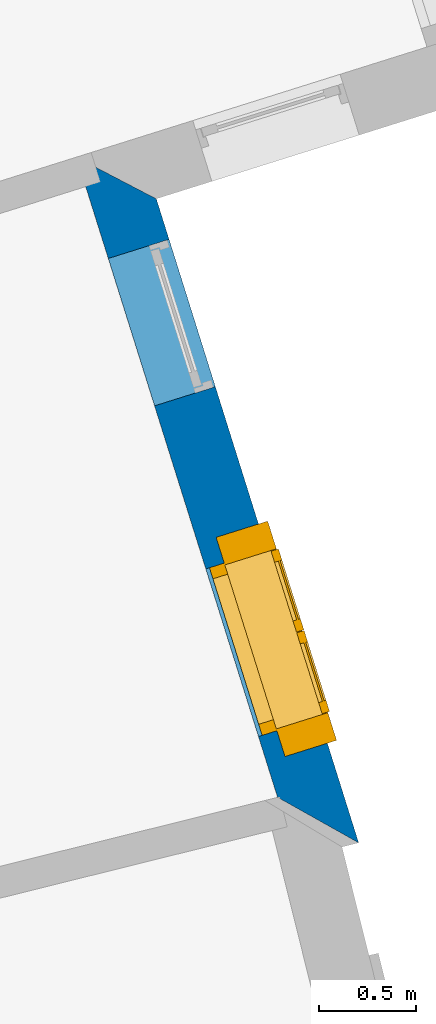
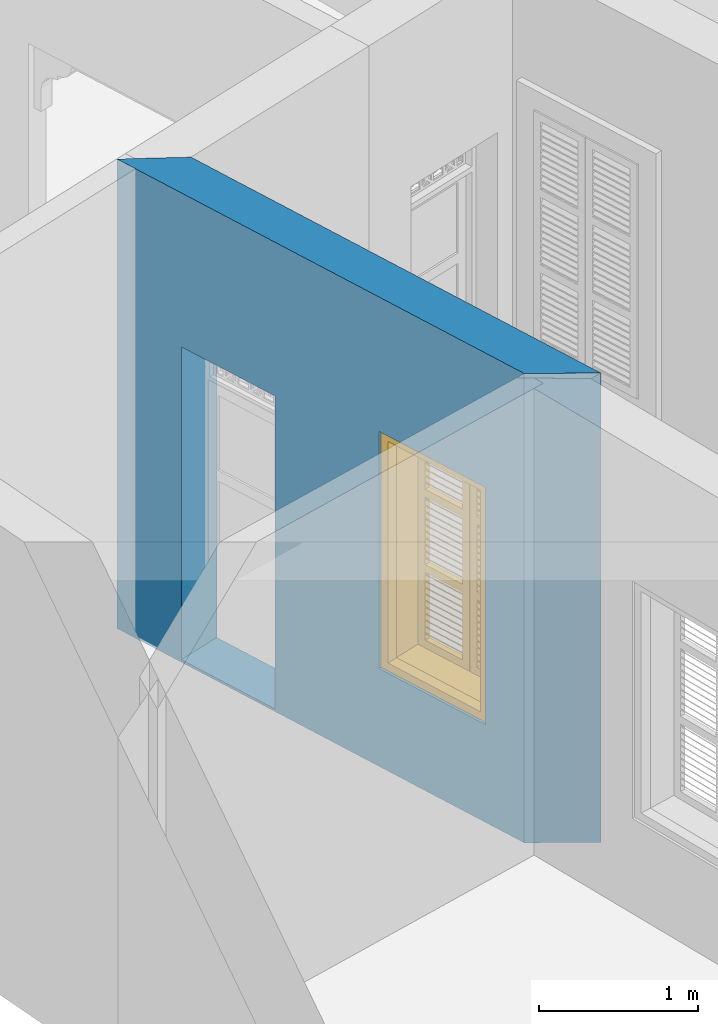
# One storey, part 7 of 14: 1 wall, 1 window, 2 openings.
"""IFC4 building model written with IfcOpenShell, lengths in metres."""

import ifcopenshell
import ifcopenshell.guid

model = None  # the IFC model being written
_history = None  # IfcOwnerHistory: only IFC2X3 demands one
_inside = {}  # id of a spatial element -> (the spatial element, [elements in it])
_under = {}  # id of a project, library or spatial element -> (it, [spatial elements below it])
_declared = {}  # id of a project -> (the project, [libraries it declares])
_typed = {}  # id of a type object -> (the type object, [elements of that type])
_made_of = {}  # id of a material, layer set ... -> (it, [elements and type objects made of it])


def new_model(schema):
    """Start an empty IFC model of exactly this schema.

    Asked for "IFC4X3", IfcOpenShell would pick the latest addendum, in which some entities
    have other attributes; the version numbers below select the first issue.
    IFC2X3 requires an IfcOwnerHistory on every rooted entity: one is made here for all.
    """
    global model, _history
    if schema == "IFC4X3":
        model = ifcopenshell.file(schema_version=(4, 3, 0, 0))
    else:
        model = ifcopenshell.file(schema=schema)
    _inside.clear()
    _under.clear()
    _declared.clear()
    _typed.clear()
    _made_of.clear()
    _history = None
    if model.schema == "IFC2X3":
        org = make("IfcOrganization", Name="unknown")
        user = make(
            "IfcPersonAndOrganization",
            ThePerson=make("IfcPerson", FamilyName="unknown"),
            TheOrganization=org,
        )
        app = make(
            "IfcApplication",
            ApplicationDeveloper=org,
            Version="unknown",
            ApplicationFullName="unknown",
            ApplicationIdentifier="unknown",
        )
        _history = make(
            "IfcOwnerHistory",
            OwningUser=user,
            OwningApplication=app,
            ChangeAction="ADDED",
            CreationDate=0,
        )
    return model


def make(cls, **values):
    """One entity of the class cls with the attributes given. An attribute that is None is left unset."""
    return model.create_entity(
        cls, **{name: value for name, value in values.items() if value is not None}
    )


def rooted(cls, **values):
    """An entity with a GlobalId (a new one), such as an element, a storey or a relation."""
    return make(cls, GlobalId=ifcopenshell.guid.new(), OwnerHistory=_history, **values)


def si_unit(unit_type, name, prefix=None):
    """IfcSIUnit, for example si_unit("LENGTHUNIT", "METRE", prefix="MILLI")."""
    return make("IfcSIUnit", UnitType=unit_type, Prefix=prefix, Name=name)


def assignment(units):
    """IfcUnitAssignment: the units of a project."""
    return None if units is None else make("IfcUnitAssignment", Units=units)


def point(xyz):
    """IfcCartesianPoint."""
    return None if xyz is None else make("IfcCartesianPoint", Coordinates=xyz)


def direction(xyz):
    """IfcDirection."""
    return None if xyz is None else make("IfcDirection", DirectionRatios=xyz)


def frame(location, z_axis=None, x_axis=None):
    """IfcAxis2Placement3D, a coordinate frame: its origin and axes. An axis left out is left unset."""
    return make(
        "IfcAxis2Placement3D",
        Location=point(location),
        Axis=direction(z_axis),
        RefDirection=direction(x_axis),
    )


def origin():
    """The frame at (0, 0, 0) with its axes left unset."""
    return frame((0.0, 0.0, 0.0))


def origin_with_axes():
    """The frame at (0, 0, 0) with the z axis (0, 0, 1) and the x axis (1, 0, 0) written out."""
    return frame((0.0, 0.0, 0.0), z_axis=(0.0, 0.0, 1.0), x_axis=(1.0, 0.0, 0.0))


def place(relative_to, where):
    """IfcLocalPlacement: puts the frame where relative to a parent placement (None: the world)."""
    return make(
        "IfcLocalPlacement", PlacementRelTo=relative_to, RelativePlacement=where
    )


def context(
    kind, dimensions, precision=None, world=None, true_north=None, identifier=None
):
    """IfcGeometricRepresentationContext, for example the 3D "Model" context."""
    return make(
        "IfcGeometricRepresentationContext",
        ContextIdentifier=identifier,
        ContextType=kind,
        CoordinateSpaceDimension=dimensions,
        Precision=precision,
        WorldCoordinateSystem=world,
        TrueNorth=true_north,
    )


def subcontext(parent, identifier, kind, view, scale=None):
    """IfcGeometricRepresentationSubContext, for example "Body" below "Model"."""
    return make(
        "IfcGeometricRepresentationSubContext",
        ContextIdentifier=identifier,
        ContextType=kind,
        ParentContext=parent,
        TargetScale=scale,
        TargetView=view,
    )


def project(units=None, contexts=None):
    """IfcProject with its units and contexts."""
    return rooted(
        "IfcProject",
        Name="project",
        RepresentationContexts=contexts,
        UnitsInContext=assignment(units),
    )


def spatial(cls, under=None, at=None, **own):
    """A site, building, storey or space (cls), placed at a placement, below another one or the project."""
    s = rooted(cls, ObjectPlacement=at, **own)
    if under is not None:
        _under.setdefault(under.id(), (under, []))[1].append(s)
    return s


def polyline(points):
    """IfcPolyline through the points."""
    return make("IfcPolyline", Points=[point(p) for p in points])


def outline(outer, holes=None, kind="AREA"):
    """IfcArbitraryClosedProfileDef: a profile drawn as a closed curve; with holes, ...WithVoids."""
    if holes is None:
        return make("IfcArbitraryClosedProfileDef", ProfileType=kind, OuterCurve=outer)
    return make(
        "IfcArbitraryProfileDefWithVoids",
        ProfileType=kind,
        OuterCurve=outer,
        InnerCurves=holes,
    )


def extrude(swept, where, along, depth):
    """IfcExtrudedAreaSolid: the profile swept, set in the frame where, extruded along a direction by depth."""
    return make(
        "IfcExtrudedAreaSolid",
        SweptArea=swept,
        Position=where,
        ExtrudedDirection=direction(along),
        Depth=depth,
    )


def faces_of(points, faces, orient=None, outer=None):
    """IfcFace entities. A face is a list of loops; a loop is a list of indices into points, from 0.

    orient and outer hold one flag for each loop. By default every Orientation is true, the
    first loop of a face is its IfcFaceOuterBound and the others are IfcFaceBound.
    """
    made = []
    for i, loops in enumerate(faces):
        bounds = []
        for j, loop in enumerate(loops):
            is_outer = j == 0 if outer is None else outer[i][j]
            bounds.append(
                make(
                    "IfcFaceOuterBound" if is_outer else "IfcFaceBound",
                    Bound=make("IfcPolyLoop", Polygon=[points[k] for k in loop]),
                    Orientation=True if orient is None else orient[i][j],
                )
            )
        made.append(make("IfcFace", Bounds=bounds))
    return made


def faceted_brep(points, faces, orient=None, outer=None, voids=None):
    """IfcFacetedBrep: a solid bounded by flat faces; with voids (closed shells), ...WithVoids."""
    shared = [point(p) for p in points]
    hull = make("IfcClosedShell", CfsFaces=faces_of(shared, faces, orient, outer))
    if voids is None:
        return make("IfcFacetedBrep", Outer=hull)
    return make(
        "IfcFacetedBrepWithVoids",
        Outer=hull,
        Voids=[
            make(cls, CfsFaces=faces_of(shared, fs, o, b)) for cls, fs, o, b in voids
        ],
    )


def shape(context_of_items, identifier, shape_type, items):
    """IfcShapeRepresentation: the items that make up one representation, for example the "Body"."""
    return make(
        "IfcShapeRepresentation",
        ContextOfItems=context_of_items,
        RepresentationIdentifier=identifier,
        RepresentationType=shape_type,
        Items=items,
    )


def source(mapping_origin, context_of_items, identifier, shape_type, items):
    """IfcRepresentationMap: a shape defined once, which mapped items show again and again."""
    return make(
        "IfcRepresentationMap",
        MappingOrigin=mapping_origin,
        MappedRepresentation=shape(context_of_items, identifier, shape_type, items),
    )


def transform(
    local_origin,
    x_axis=None,
    y_axis=None,
    z_axis=None,
    scale=None,
    scale2=None,
    scale3=None,
    uniform=True,
):
    """IfcCartesianTransformationOperator3D, or its non-uniform kind. x_axis, y_axis, z_axis: its Axis1, 2, 3."""
    if uniform:
        return make(
            "IfcCartesianTransformationOperator3D",
            Axis1=direction(x_axis),
            Axis2=direction(y_axis),
            LocalOrigin=point(local_origin),
            Scale=scale,
            Axis3=direction(z_axis),
        )
    return make(
        "IfcCartesianTransformationOperator3DnonUniform",
        Axis1=direction(x_axis),
        Axis2=direction(y_axis),
        LocalOrigin=point(local_origin),
        Scale=scale,
        Axis3=direction(z_axis),
        Scale2=scale2,
        Scale3=scale3,
    )


def mapped(mapping_source, mapping_target):
    """IfcMappedItem: shows the shape of a source again, moved by a transform."""
    return make(
        "IfcMappedItem", MappingSource=mapping_source, MappingTarget=mapping_target
    )


def material(Name=None, Category=None):
    """IfcMaterial."""
    return make("IfcMaterial", Name=Name, Category=Category)


def layer(
    of_material, thickness, ventilated=None, Name=None, Category=None, Priority=None
):
    """IfcMaterialLayer: one layer of a wall or slab, of a material (None: an air gap)."""
    return make(
        "IfcMaterialLayer",
        Material=of_material,
        LayerThickness=thickness,
        IsVentilated=ventilated,
        Name=Name,
        Category=Category,
        Priority=Priority,
    )


def layer_set(layers, Name=None):
    """IfcMaterialLayerSet."""
    return make("IfcMaterialLayerSet", MaterialLayers=layers, LayerSetName=Name)


def layer_usage(for_layer_set, set_direction, sense, offset, extent=None):
    """IfcMaterialLayerSetUsage: how a layer set lies in its element."""
    return make(
        "IfcMaterialLayerSetUsage",
        ForLayerSet=for_layer_set,
        LayerSetDirection=set_direction,
        DirectionSense=sense,
        OffsetFromReferenceLine=offset,
        ReferenceExtent=extent,
    )


def made_of(thing, what):
    """Note that an element or type object is made of a material, layer set ...; save() writes the relation."""
    if what is not None:
        _made_of.setdefault(what.id(), (what, []))[1].append(thing)
    return thing


def type_object(cls, material=None, **own):
    """A type object (cls), such as IfcWallType, which elements share."""
    return made_of(rooted(cls, **own), material)


def type_shapes(of_type, sources):
    """Give a type object the sources (RepresentationMaps) that its elements show as mapped items."""
    of_type.RepresentationMaps = sources


def element(
    cls,
    number,
    at=None,
    inside=None,
    cuts=None,
    type_object=None,
    material=None,
    context=None,
    identifier="Body",
    shape_type=None,
    held_by="IfcProductDefinitionShape",
    body=None,
    shapes=None,
    **own,
):
    """One element of the class cls, such as IfcWall. Its Tag is "e" and its number.

    at: its placement. inside: the storey or other place that contains it. cuts: it is an
    opening in that element (IfcRelVoidsElement). A single representation is given by context,
    identifier, shape_type and body (its items); several are given by shapes. held_by: the class
    of the entity that holds the representations. save() writes the other relations.
    """
    e = rooted(cls, Tag="e%d" % number, ObjectPlacement=at, **own)
    if body is not None:
        shapes = [shape(context, identifier, shape_type, body)]
    if shapes is not None:
        e.Representation = make(held_by, Representations=shapes)
    if inside is not None:
        _inside.setdefault(inside.id(), (inside, []))[1].append(e)
    if cuts is not None:
        rooted(
            "IfcRelVoidsElement", RelatingBuildingElement=cuts, RelatedOpeningElement=e
        )
    if type_object is not None:
        _typed.setdefault(type_object.id(), (type_object, []))[1].append(e)
    return made_of(e, material)


def fill(opening, filler):
    """IfcRelFillsElement: the door or window that sits in an opening."""
    return rooted(
        "IfcRelFillsElement",
        RelatingOpeningElement=opening,
        RelatedBuildingElement=filler,
    )


def aggregate(whole, parts):
    """IfcRelAggregates: a whole, such as a stair, and the parts it consists of."""
    return rooted("IfcRelAggregates", RelatingObject=whole, RelatedObjects=parts)


def save(model, path):
    """Write the relations noted so far, then the file.

    IfcRelAggregates (storeys below a building ...), IfcRelContainedInSpatialStructure (elements
    in a storey), IfcRelDefinesByType, IfcRelAssociatesMaterial and IfcRelDeclares: one each for
    every whole, place, type object, material and project.
    """
    for whole, parts in _under.values():
        aggregate(whole, parts)
    for where, things in _inside.values():
        rooted(
            "IfcRelContainedInSpatialStructure",
            RelatedElements=things,
            RelatingStructure=where,
        )
    for kind, things in _typed.values():
        rooted("IfcRelDefinesByType", RelatedObjects=things, RelatingType=kind)
    for what, things in _made_of.values():
        rooted("IfcRelAssociatesMaterial", RelatedObjects=things, RelatingMaterial=what)
    for by, libraries in _declared.values():
        rooted("IfcRelDeclares", RelatingContext=by, RelatedDefinitions=libraries)
    model.write(path)


model = new_model("IFC4")

# Units and contexts
model_context = context("Model", 3, world=origin_with_axes())
body_context = subcontext(model_context, "Body", "Model", "MODEL_VIEW")
ifc_project = project(units=[si_unit("PLANEANGLEUNIT", "RADIAN"), si_unit("MASSUNIT", "GRAM", prefix="KILO"), si_unit("FORCEUNIT", "NEWTON", prefix="KILO"), si_unit("LENGTHUNIT", "METRE"), si_unit("AREAUNIT", "SQUARE_METRE"), si_unit("VOLUMEUNIT", "CUBIC_METRE")], contexts=[model_context, model_context])

# Site, building, storey
site_placement = place(None, origin_with_axes())
site = spatial("IfcSite", under=ifc_project, at=site_placement, Name="Site plot-0", CompositionType="ELEMENT")
building_placement = place(None, origin_with_axes())
building = spatial("IfcBuilding", under=site, at=building_placement, Name="Building plot-0", CompositionType="ELEMENT")
storey_placement = place(None, origin_with_axes())
storey = spatial("IfcBuildingStorey", under=building, at=storey_placement, Name="plot-0 0", CompositionType="ELEMENT", Elevation=0.0)

# Wall, openings, window
ifc_material = material(Name="Masonry")
ifc_layer = layer(ifc_material, 0.33, ventilated=False)
ifc_layer_set = layer_set([ifc_layer], Name="exterior_0.08_0.25")
ifc_layer_usage = layer_usage(ifc_layer_set, "AXIS2", "POSITIVE", -0.25)
wall_type = type_object("IfcWallType", Name="exterior_0.08_0.25", PredefinedType="SOLIDWALL", material=ifc_layer_set)
wall_placement = place(storey_placement, frame((4.05350582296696, 5.40387357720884, 0.0), z_axis=(0.0, 0.0, 1.0), x_axis=(-0.299724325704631, 0.954025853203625, 0.0)))
wall = element("IfcWall", 1, at=wall_placement, inside=storey, type_object=wall_type, material=ifc_layer_usage, Name="exterior", context=body_context, shape_type="SweptSolid", body=[
    extrude(outline(polyline([(0.0850170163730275, 0.0800000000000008), (-0.265678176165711, -0.25), (3.23043635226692, -0.25), (3.56043635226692, 0.0800000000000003), (0.0850170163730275, 0.0800000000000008)])), origin_with_axes(), (0.0, 0.0, 1.0), 3.6),
])
opening_1_placement = place(wall_placement, frame((0.41510908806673, 0.0, 0.75)))
opening_1 = element("IfcOpeningElement", 2, at=opening_1_placement, cuts=wall, Name="My Opening", ObjectType="Opening", context=body_context, shape_type="SweptSolid", body=[
    extrude(outline(polyline([(0.0, -0.269999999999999), (0.91, -0.27), (0.910000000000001, 1.1), (2.77555756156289e-16, 1.1), (0.0, -0.269999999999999)])), origin_with_axes(), (0.0, 0.0, 1.0), 1.82),
])
opening_2_placement = place(wall_placement, frame((2.21032726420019, 0.0, 0.02)))
element("IfcOpeningElement", 3, at=opening_2_placement, cuts=wall, Name="My Opening", ObjectType="Opening", context=body_context, shape_type="SweptSolid", body=[
    extrude(outline(polyline([(0.0, -0.27), (0.8, -0.27), (0.8, 1.1), (8.88178419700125e-16, 1.1), (0.0, -0.27)])), origin_with_axes(), (0.0, 0.0, 1.0), 2.4),
])
window_type = type_object("IfcWindowType", Name="shuttered_big", PartitioningType="DOUBLE_PANEL_HORIZONTAL", PredefinedType="NOTDEFINED")
shared_shape = source(origin(), body_context, "Body", "Brep", [
    faceted_brep([(0.074, 0.0, 0.810667), (0.393, 0.0, 0.810667), (0.393, 0.0, 0.800667), (0.074, 0.0, 0.800667), (0.074, -0.04, 0.770667), (0.393, -0.04, 0.770667), (0.393, -0.04, 0.760667), (0.074, -0.04, 0.760667), (0.517, 0.0, 0.232), (0.836, 0.0, 0.232), (0.836, 0.0, 0.222), (0.517, 0.0, 0.222), (0.517, -0.04, 0.192), (0.836, -0.04, 0.192), (0.836, -0.04, 0.182), (0.517, -0.04, 0.182), (0.517, 0.0, 0.532), (0.836, 0.0, 0.532), (0.836, 0.0, 0.522), (0.517, 0.0, 0.522), (0.517, -0.04, 0.492), (0.836, -0.04, 0.492), (0.836, -0.04, 0.482), (0.517, -0.04, 0.482), (0.517, 0.0, 0.482), (0.836, 0.0, 0.482), (0.836, 0.0, 0.472), (0.517, 0.0, 0.472), (0.517, -0.04, 0.442), (0.836, -0.04, 0.442), (0.836, -0.04, 0.432), (0.517, -0.04, 0.432), (0.517, 0.0, 0.582), (0.836, 0.0, 0.582), (0.836, 0.0, 0.572), (0.517, 0.0, 0.572), (0.517, -0.04, 0.542), (0.836, -0.04, 0.542), (0.836, -0.04, 0.532), (0.517, -0.04, 0.532), (0.517, 0.0, 0.182), (0.836, 0.0, 0.182), (0.836, 0.0, 0.172), (0.517, 0.0, 0.172), (0.517, -0.04, 0.142), (0.836, -0.04, 0.142), (0.836, -0.04, 0.132), (0.517, -0.04, 0.132), (0.517, 0.0, 0.382), (0.836, 0.0, 0.382), (0.836, 0.0, 0.372), (0.517, 0.0, 0.372), (0.517, -0.04, 0.342), (0.836, -0.04, 0.342), (0.836, -0.04, 0.332), (0.517, -0.04, 0.332), (0.517, 0.0, 0.432), (0.836, 0.0, 0.432), (0.836, 0.0, 0.422), (0.517, 0.0, 0.422), (0.517, -0.04, 0.392), (0.836, -0.04, 0.392), (0.836, -0.04, 0.382), (0.517, -0.04, 0.382), (0.517, 0.0, 0.132), (0.836, 0.0, 0.132), (0.836, 0.0, 0.122), (0.517, 0.0, 0.122), (0.517, -0.04, 0.092), (0.836, -0.04, 0.092), (0.836, -0.04, 0.082), (0.517, -0.04, 0.082), (0.517, 0.0, 0.282), (0.836, 0.0, 0.282), (0.836, 0.0, 0.272), (0.517, 0.0, 0.272), (0.517, -0.04, 0.242), (0.836, -0.04, 0.242), (0.836, -0.04, 0.232), (0.517, -0.04, 0.232), (0.517, 0.0, 0.332), (0.836, 0.0, 0.332), (0.836, 0.0, 0.322), (0.517, 0.0, 0.322), (0.517, -0.04, 0.292), (0.836, -0.04, 0.292), (0.836, -0.04, 0.282), (0.517, -0.04, 0.282), (0.517, 0.0, 0.810667), (0.836, 0.0, 0.810667), (0.836, 0.0, 0.800667), (0.517, 0.0, 0.800667), (0.517, -0.04, 0.770667), (0.836, -0.04, 0.770667), (0.836, -0.04, 0.760667), (0.517, -0.04, 0.760667), (0.517, 0.0, 1.110667), (0.836, 0.0, 1.110667), (0.836, 0.0, 1.100667), (0.517, 0.0, 1.100667), (0.517, -0.04, 1.070667), (0.836, -0.04, 1.070667), (0.836, -0.04, 1.060667), (0.517, -0.04, 1.060667), (0.517, 0.0, 1.060667), (0.836, 0.0, 1.060667), (0.836, 0.0, 1.050667), (0.517, 0.0, 1.050667), (0.517, -0.04, 1.020667), (0.836, -0.04, 1.020667), (0.836, -0.04, 1.010667), (0.517, -0.04, 1.010667), (0.517, 0.0, 1.160667), (0.836, 0.0, 1.160667), (0.836, 0.0, 1.150667), (0.517, 0.0, 1.150667), (0.517, -0.04, 1.120667), (0.836, -0.04, 1.120667), (0.836, -0.04, 1.110667), (0.517, -0.04, 1.110667), (0.517, 0.0, 0.760667), (0.836, 0.0, 0.760667), (0.836, 0.0, 0.750667), (0.517, 0.0, 0.750667), (0.517, -0.04, 0.720667), (0.836, -0.04, 0.720667), (0.836, -0.04, 0.710667), (0.517, -0.04, 0.710667), (0.517, 0.0, 0.960667), (0.836, 0.0, 0.960667), (0.836, 0.0, 0.950667), (0.517, 0.0, 0.950667), (0.517, -0.04, 0.920667), (0.836, -0.04, 0.920667), (0.836, -0.04, 0.910667), (0.517, -0.04, 0.910667), (0.517, 0.0, 1.010667), (0.836, 0.0, 1.010667), (0.836, 0.0, 1.0), (0.517, 0.0, 1.0), (0.517, -0.04, 0.970667), (0.836, -0.04, 0.970667), (0.836, -0.04, 0.960667), (0.517, -0.04, 0.960667), (0.517, 0.0, 0.710667), (0.836, 0.0, 0.710667), (0.836, 0.0, 0.700667), (0.517, 0.0, 0.700667), (0.517, -0.04, 0.670667), (0.836, -0.04, 0.670667), (0.836, -0.04, 0.660667), (0.517, -0.04, 0.660667), (0.517, 0.0, 0.860667), (0.836, 0.0, 0.860667), (0.836, 0.0, 0.850667), (0.517, 0.0, 0.850667), (0.517, -0.04, 0.820667), (0.836, -0.04, 0.820667), (0.836, -0.04, 0.810667), (0.517, -0.04, 0.810667), (0.517, 0.0, 0.910667), (0.836, 0.0, 0.910667), (0.836, 0.0, 0.900667), (0.517, 0.0, 0.900667), (0.517, -0.04, 0.870667), (0.836, -0.04, 0.870667), (0.836, -0.04, 0.860667), (0.517, -0.04, 0.860667), (0.517, 0.0, 1.389333), (0.836, 0.0, 1.389333), (0.836, 0.0, 1.379333), (0.517, 0.0, 1.379333), (0.517, -0.04, 1.349333), (0.836, -0.04, 1.349333), (0.836, -0.04, 1.339333), (0.517, -0.04, 1.339333), (0.517, 0.0, 1.689333), (0.836, 0.0, 1.689333), (0.836, 0.0, 1.679333), (0.517, 0.0, 1.679333), (0.517, -0.04, 1.649333), (0.836, -0.04, 1.649333), (0.836, -0.04, 1.639333), (0.517, -0.04, 1.639333), (0.517, 0.0, 1.639333), (0.836, 0.0, 1.639333), (0.836, 0.0, 1.629333), (0.517, 0.0, 1.629333), (0.517, -0.04, 1.599333), (0.836, -0.04, 1.599333), (0.836, -0.04, 1.589333), (0.517, -0.04, 1.589333), (0.517, 0.0, 1.739333), (0.836, 0.0, 1.739333), (0.836, 0.0, 1.729333), (0.517, 0.0, 1.729333), (0.517, -0.04, 1.699333), (0.836, -0.04, 1.699333), (0.836, -0.04, 1.689333), (0.517, -0.04, 1.689333), (0.517, 0.0, 1.339333), (0.836, 0.0, 1.339333), (0.836, 0.0, 1.329333), (0.517, 0.0, 1.329333), (0.517, -0.04, 1.299333), (0.836, -0.04, 1.299333), (0.836, -0.04, 1.289333), (0.517, -0.04, 1.289333), (0.517, 0.0, 1.539333), (0.836, 0.0, 1.539333), (0.836, 0.0, 1.529333), (0.517, 0.0, 1.529333), (0.517, -0.04, 1.499333), (0.836, -0.04, 1.499333), (0.836, -0.04, 1.489333), (0.517, -0.04, 1.489333), (0.517, 0.0, 1.589333), (0.836, 0.0, 1.589333), (0.836, 0.0, 1.579333), (0.517, 0.0, 1.579333), (0.517, -0.04, 1.549333), (0.836, -0.04, 1.549333), (0.836, -0.04, 1.539333), (0.517, -0.04, 1.539333), (0.517, 0.0, 1.289333), (0.836, 0.0, 1.289333), (0.836, 0.0, 1.279333), (0.517, 0.0, 1.279333), (0.517, -0.04, 1.249333), (0.836, -0.04, 1.249333), (0.836, -0.04, 1.239333), (0.517, -0.04, 1.239333), (0.517, 0.0, 1.439333), (0.836, 0.0, 1.439333), (0.836, 0.0, 1.429333), (0.517, 0.0, 1.429333), (0.517, -0.04, 1.399333), (0.836, -0.04, 1.399333), (0.836, -0.04, 1.389333), (0.517, -0.04, 1.389333), (0.517, 0.0, 1.489333), (0.836, 0.0, 1.489333), (0.836, 0.0, 1.479333), (0.517, 0.0, 1.479333), (0.517, -0.04, 1.449333), (0.836, -0.04, 1.449333), (0.836, -0.04, 1.439333), (0.517, -0.04, 1.439333), (0.074, 0.0, 0.232), (0.393, 0.0, 0.232), (0.393, 0.0, 0.222), (0.074, 0.0, 0.222), (0.074, -0.04, 0.192), (0.393, -0.04, 0.192), (0.393, -0.04, 0.182), (0.074, -0.04, 0.182), (0.074, 0.0, 0.532), (0.393, 0.0, 0.532), (0.393, 0.0, 0.522), (0.074, 0.0, 0.522), (0.074, -0.04, 0.492), (0.393, -0.04, 0.492), (0.393, -0.04, 0.482), (0.074, -0.04, 0.482), (0.074, 0.0, 0.482), (0.393, 0.0, 0.482), (0.393, 0.0, 0.472), (0.074, 0.0, 0.472), (0.074, -0.04, 0.442), (0.393, -0.04, 0.442), (0.393, -0.04, 0.432), (0.074, -0.04, 0.432), (0.074, 0.0, 0.582), (0.393, 0.0, 0.582), (0.393, 0.0, 0.572), (0.074, 0.0, 0.572), (0.074, -0.04, 0.542), (0.393, -0.04, 0.542), (0.393, -0.04, 0.532), (0.074, -0.04, 0.532), (0.074, 0.0, 0.182), (0.393, 0.0, 0.182), (0.393, 0.0, 0.172), (0.074, 0.0, 0.172), (0.074, -0.04, 0.142), (0.393, -0.04, 0.142), (0.393, -0.04, 0.132), (0.074, -0.04, 0.132), (0.074, 0.0, 0.382), (0.393, 0.0, 0.382), (0.393, 0.0, 0.372), (0.074, 0.0, 0.372), (0.074, -0.04, 0.342), (0.393, -0.04, 0.342), (0.393, -0.04, 0.332), (0.074, -0.04, 0.332), (0.074, 0.0, 0.432), (0.393, 0.0, 0.432), (0.393, 0.0, 0.422), (0.074, 0.0, 0.422), (0.074, -0.04, 0.392), (0.393, -0.04, 0.392), (0.393, -0.04, 0.382), (0.074, -0.04, 0.382), (0.074, 0.0, 0.132), (0.393, 0.0, 0.132), (0.393, 0.0, 0.122), (0.074, 0.0, 0.122), (0.074, -0.04, 0.092), (0.393, -0.04, 0.092), (0.393, -0.04, 0.082), (0.074, -0.04, 0.082), (0.074, 0.0, 0.282), (0.393, 0.0, 0.282), (0.393, 0.0, 0.272), (0.074, 0.0, 0.272), (0.074, -0.04, 0.242), (0.393, -0.04, 0.242), (0.393, -0.04, 0.232), (0.074, -0.04, 0.232), (0.074, 0.0, 0.332), (0.393, 0.0, 0.332), (0.393, 0.0, 0.322), (0.074, 0.0, 0.322), (0.074, -0.04, 0.292), (0.393, -0.04, 0.292), (0.393, -0.04, 0.282), (0.074, -0.04, 0.282), (0.074, 0.0, 1.110667), (0.393, 0.0, 1.110667), (0.393, 0.0, 1.100667), (0.074, 0.0, 1.100667), (0.074, -0.04, 1.070667), (0.393, -0.04, 1.070667), (0.393, -0.04, 1.060667), (0.074, -0.04, 1.060667), (0.074, 0.0, 1.060667), (0.393, 0.0, 1.060667), (0.393, 0.0, 1.050667), (0.074, 0.0, 1.050667), (0.074, -0.04, 1.020667), (0.393, -0.04, 1.020667), (0.393, -0.04, 1.010667), (0.074, -0.04, 1.010667), (0.074, 0.0, 1.160667), (0.393, 0.0, 1.160667), (0.393, 0.0, 1.150667), (0.074, 0.0, 1.150667), (0.074, -0.04, 1.120667), (0.393, -0.04, 1.120667), (0.393, -0.04, 1.110667), (0.074, -0.04, 1.110667), (0.074, 0.0, 0.760667), (0.393, 0.0, 0.760667), (0.393, 0.0, 0.750667), (0.074, 0.0, 0.750667), (0.074, -0.04, 0.720667), (0.393, -0.04, 0.720667), (0.393, -0.04, 0.710667), (0.074, -0.04, 0.710667), (0.074, 0.0, 0.960667), (0.393, 0.0, 0.960667), (0.393, 0.0, 0.950667), (0.074, 0.0, 0.950667), (0.074, -0.04, 0.920667), (0.393, -0.04, 0.920667), (0.393, -0.04, 0.910667), (0.074, -0.04, 0.910667), (0.074, 0.0, 1.010667), (0.393, 0.0, 1.010667), (0.393, 0.0, 1.0), (0.074, 0.0, 1.0), (0.074, -0.04, 0.970667), (0.393, -0.04, 0.970667), (0.393, -0.04, 0.960667), (0.074, -0.04, 0.960667), (0.074, 0.0, 0.710667), (0.393, 0.0, 0.710667), (0.393, 0.0, 0.700667), (0.074, 0.0, 0.700667), (0.074, -0.04, 0.670667), (0.393, -0.04, 0.670667), (0.393, -0.04, 0.660667), (0.074, -0.04, 0.660667), (0.074, 0.0, 0.860667), (0.393, 0.0, 0.860667), (0.393, 0.0, 0.850667), (0.074, 0.0, 0.850667), (0.074, -0.04, 0.820667), (0.393, -0.04, 0.820667), (0.393, -0.04, 0.810667), (0.074, -0.04, 0.810667), (0.074, 0.0, 0.910667), (0.393, 0.0, 0.910667), (0.393, 0.0, 0.900667), (0.074, 0.0, 0.900667), (0.074, -0.04, 0.870667), (0.393, -0.04, 0.870667), (0.393, -0.04, 0.860667), (0.074, -0.04, 0.860667), (0.074, 0.0, 1.389333), (0.393, 0.0, 1.389333), (0.393, 0.0, 1.379333), (0.074, 0.0, 1.379333), (0.074, -0.04, 1.349333), (0.393, -0.04, 1.349333), (0.393, -0.04, 1.339333), (0.074, -0.04, 1.339333), (0.074, 0.0, 1.689333), (0.393, 0.0, 1.689333), (0.393, 0.0, 1.679333), (0.074, 0.0, 1.679333), (0.074, -0.04, 1.649333), (0.393, -0.04, 1.649333), (0.393, -0.04, 1.639333), (0.074, -0.04, 1.639333), (0.074, 0.0, 1.639333), (0.393, 0.0, 1.639333), (0.393, 0.0, 1.629333), (0.074, 0.0, 1.629333), (0.074, -0.04, 1.599333), (0.393, -0.04, 1.599333), (0.393, -0.04, 1.589333), (0.074, -0.04, 1.589333), (0.074, 0.0, 1.739333), (0.393, 0.0, 1.739333), (0.393, 0.0, 1.729333), (0.074, 0.0, 1.729333), (0.074, -0.04, 1.699333), (0.393, -0.04, 1.699333), (0.393, -0.04, 1.689333), (0.074, -0.04, 1.689333), (0.074, 0.0, 1.339333), (0.393, 0.0, 1.339333), (0.393, 0.0, 1.329333), (0.074, 0.0, 1.329333), (0.074, -0.04, 1.299333), (0.393, -0.04, 1.299333), (0.393, -0.04, 1.289333), (0.074, -0.04, 1.289333), (0.074, 0.0, 1.539333), (0.393, 0.0, 1.539333), (0.393, 0.0, 1.529333), (0.074, 0.0, 1.529333), (0.074, -0.04, 1.499333), (0.393, -0.04, 1.499333), (0.393, -0.04, 1.489333), (0.074, -0.04, 1.489333), (0.074, 0.0, 1.589333), (0.393, 0.0, 1.589333), (0.393, 0.0, 1.579333), (0.074, 0.0, 1.579333), (0.074, -0.04, 1.549333), (0.393, -0.04, 1.549333), (0.393, -0.04, 1.539333), (0.074, -0.04, 1.539333), (0.074, 0.0, 1.289333), (0.393, 0.0, 1.289333), (0.393, 0.0, 1.279333), (0.074, 0.0, 1.279333), (0.074, -0.04, 1.249333), (0.393, -0.04, 1.249333), (0.393, -0.04, 1.239333), (0.074, -0.04, 1.239333), (0.074, 0.0, 1.439333), (0.393, 0.0, 1.439333), (0.393, 0.0, 1.429333), (0.074, 0.0, 1.429333), (0.074, -0.04, 1.399333), (0.393, -0.04, 1.399333), (0.393, -0.04, 1.389333), (0.074, -0.04, 1.389333), (0.074, 0.0, 1.489333), (0.393, 0.0, 1.489333), (0.393, 0.0, 1.479333), (0.074, 0.0, 1.479333), (0.074, -0.04, 1.449333), (0.393, -0.04, 1.449333), (0.393, -0.04, 1.439333), (0.074, -0.04, 1.439333), (0.517, -0.04, 0.072), (0.457, -0.04, 0.012), (0.896, -0.04, 0.012), (0.836, -0.04, 0.072), (0.457, -0.04, 0.590667), (0.517, -0.04, 0.590667), (0.457, 0.0, 0.012), (0.896, 0.0, 0.012), (0.836, -0.04, 0.590667), (0.896, -0.04, 0.590667), (0.836, 0.0, 0.072), (0.517, 0.0, 0.072), (0.457, 0.0, 0.590667), (0.517, 0.0, 0.590667), (0.517, -0.04, 0.650667), (0.457, -0.04, 0.650667), (0.896, 0.0, 0.590667), (0.836, 0.0, 0.590667), (0.836, -0.04, 0.650667), (0.896, -0.04, 0.650667), (0.457, 0.0, 0.650667), (0.457, -0.04, 1.169333), (0.517, -0.04, 1.169333), (0.896, 0.0, 0.650667), (0.836, -0.04, 1.169333), (0.896, -0.04, 1.169333), (0.457, 0.0, 1.169333), (0.517, 0.0, 0.650667), (0.836, 0.0, 0.650667), (0.517, 0.0, 1.169333), (0.517, -0.04, 1.229333), (0.457, -0.04, 1.229333), (0.896, 0.0, 1.169333), (0.836, 0.0, 1.169333), (0.836, -0.04, 1.229333), (0.896, -0.04, 1.229333), (0.457, 0.0, 1.229333), (0.517, -0.04, 1.748), (0.457, -0.04, 1.808), (0.896, 0.0, 1.229333), (0.896, -0.04, 1.808), (0.836, -0.04, 1.748), (0.457, 0.0, 1.808), (0.517, 0.0, 1.229333), (0.836, 0.0, 1.229333), (0.517, 0.0, 1.748), (0.896, 0.0, 1.808), (0.836, 0.0, 1.748), (0.074, -0.04, 0.072), (0.014, -0.04, 0.012), (0.453, -0.04, 0.012), (0.393, -0.04, 0.072), (0.014, -0.04, 0.590667), (0.074, -0.04, 0.590667), (0.014, 0.0, 0.012), (0.453, 0.0, 0.012), (0.393, -0.04, 0.590667), (0.453, -0.04, 0.590667), (0.393, 0.0, 0.072), (0.074, 0.0, 0.072), (0.014, 0.0, 0.590667), (0.074, 0.0, 0.590667), (0.074, -0.04, 0.650667), (0.014, -0.04, 0.650667), (0.453, 0.0, 0.590667), (0.393, 0.0, 0.590667), (0.393, -0.04, 0.650667), (0.453, -0.04, 0.650667), (0.014, 0.0, 0.650667), (0.014, -0.04, 1.169333), (0.074, -0.04, 1.169333), (0.453, 0.0, 0.650667), (0.393, -0.04, 1.169333), (0.453, -0.04, 1.169333), (0.014, 0.0, 1.169333), (0.074, 0.0, 0.650667), (0.393, 0.0, 0.650667), (0.074, 0.0, 1.169333), (0.074, -0.04, 1.229333), (0.014, -0.04, 1.229333), (0.453, 0.0, 1.169333), (0.393, 0.0, 1.169333), (0.393, -0.04, 1.229333), (0.453, -0.04, 1.229333), (0.014, 0.0, 1.229333), (0.074, -0.04, 1.748), (0.014, -0.04, 1.808), (0.453, 0.0, 1.229333), (0.453, -0.04, 1.808), (0.393, -0.04, 1.748), (0.014, 0.0, 1.808), (0.074, 0.0, 1.229333), (0.393, 0.0, 1.229333), (0.074, 0.0, 1.748), (0.453, 0.0, 1.808), (0.393, 0.0, 1.748), (0.0, 0.33, 1.82), (0.91, 0.33, 1.82), (0.85, 0.33, 1.76), (0.06, 0.33, 1.76), (1.05, -0.03, 1.96), (1.05, 0.25, 1.96), (-0.14, 0.25, 1.96), (-0.14, -0.03, 1.96), (0.0, 0.25, 1.82), (0.91, 0.25, 1.82), (0.9, 0.25, 1.81), (0.01, 0.25, 1.81), (0.85, 0.33, 0.06), (0.91, 0.33, 0.0), (0.85, 0.25, 1.76), (0.06, 0.25, 1.76), (0.0, 0.33, 0.0), (0.06, 0.33, 0.06), (0.0, 0.25, 0.0), (0.910046, 0.25, 1.82), (0.91, 0.25, 0.0), (0.85, 0.25, 0.06), (0.06, 0.25, 0.06), (0.9, 0.25, 0.01), (0.9, -0.03, 0.01), (0.9, -0.03, 1.81), (0.01, -0.03, 0.01), (-0.14, -0.03, -0.14), (1.05, -0.03, -0.14), (0.01, -0.03, 1.81), (0.01, 0.25, 0.01), (1.05, 0.25, -0.14), (-0.14, 0.25, -0.14)], [[[0, 1, 2, 3]], [[1, 0, 4, 5]], [[2, 1, 5, 6]], [[6, 7, 3, 2]], [[7, 4, 0, 3]], [[5, 4, 7, 6]], [[8, 9, 10, 11]], [[12, 13, 9, 8]], [[13, 14, 10, 9]], [[14, 15, 11, 10]], [[15, 12, 8, 11]], [[13, 12, 15, 14]], [[16, 17, 18, 19]], [[20, 21, 17, 16]], [[21, 22, 18, 17]], [[22, 23, 19, 18]], [[23, 20, 16, 19]], [[21, 20, 23, 22]], [[24, 25, 26, 27]], [[28, 29, 25, 24]], [[29, 30, 26, 25]], [[30, 31, 27, 26]], [[31, 28, 24, 27]], [[29, 28, 31, 30]], [[32, 33, 34, 35]], [[36, 37, 33, 32]], [[37, 38, 34, 33]], [[38, 39, 35, 34]], [[39, 36, 32, 35]], [[37, 36, 39, 38]], [[40, 41, 42, 43]], [[44, 45, 41, 40]], [[45, 46, 42, 41]], [[46, 47, 43, 42]], [[47, 44, 40, 43]], [[45, 44, 47, 46]], [[48, 49, 50, 51]], [[52, 53, 49, 48]], [[53, 54, 50, 49]], [[54, 55, 51, 50]], [[55, 52, 48, 51]], [[53, 52, 55, 54]], [[56, 57, 58, 59]], [[60, 61, 57, 56]], [[61, 62, 58, 57]], [[62, 63, 59, 58]], [[63, 60, 56, 59]], [[61, 60, 63, 62]], [[64, 65, 66, 67]], [[68, 69, 65, 64]], [[69, 70, 66, 65]], [[70, 71, 67, 66]], [[71, 68, 64, 67]], [[69, 68, 71, 70]], [[72, 73, 74, 75]], [[76, 77, 73, 72]], [[77, 78, 74, 73]], [[78, 79, 75, 74]], [[79, 76, 72, 75]], [[77, 76, 79, 78]], [[80, 81, 82, 83]], [[84, 85, 81, 80]], [[85, 86, 82, 81]], [[86, 87, 83, 82]], [[87, 84, 80, 83]], [[85, 84, 87, 86]], [[88, 89, 90, 91]], [[92, 93, 89, 88]], [[93, 94, 90, 89]], [[94, 95, 91, 90]], [[95, 92, 88, 91]], [[93, 92, 95, 94]], [[96, 97, 98, 99]], [[100, 101, 97, 96]], [[101, 102, 98, 97]], [[102, 103, 99, 98]], [[103, 100, 96, 99]], [[101, 100, 103, 102]], [[104, 105, 106, 107]], [[108, 109, 105, 104]], [[109, 110, 106, 105]], [[110, 111, 107, 106]], [[111, 108, 104, 107]], [[109, 108, 111, 110]], [[112, 113, 114, 115]], [[116, 117, 113, 112]], [[117, 118, 114, 113]], [[118, 119, 115, 114]], [[119, 116, 112, 115]], [[117, 116, 119, 118]], [[120, 121, 122, 123]], [[124, 125, 121, 120]], [[125, 126, 122, 121]], [[126, 127, 123, 122]], [[127, 124, 120, 123]], [[125, 124, 127, 126]], [[128, 129, 130, 131]], [[132, 133, 129, 128]], [[133, 134, 130, 129]], [[134, 135, 131, 130]], [[135, 132, 128, 131]], [[133, 132, 135, 134]], [[136, 137, 138, 139]], [[140, 141, 137, 136]], [[141, 142, 138, 137]], [[142, 143, 139, 138]], [[143, 140, 136, 139]], [[141, 140, 143, 142]], [[144, 145, 146, 147]], [[148, 149, 145, 144]], [[149, 150, 146, 145]], [[150, 151, 147, 146]], [[151, 148, 144, 147]], [[149, 148, 151, 150]], [[152, 153, 154, 155]], [[156, 157, 153, 152]], [[157, 158, 154, 153]], [[158, 159, 155, 154]], [[159, 156, 152, 155]], [[157, 156, 159, 158]], [[160, 161, 162, 163]], [[164, 165, 161, 160]], [[165, 166, 162, 161]], [[166, 167, 163, 162]], [[167, 164, 160, 163]], [[165, 164, 167, 166]], [[168, 169, 170, 171]], [[172, 173, 169, 168]], [[173, 174, 170, 169]], [[174, 175, 171, 170]], [[175, 172, 168, 171]], [[173, 172, 175, 174]], [[176, 177, 178, 179]], [[180, 181, 177, 176]], [[181, 182, 178, 177]], [[182, 183, 179, 178]], [[183, 180, 176, 179]], [[181, 180, 183, 182]], [[184, 185, 186, 187]], [[188, 189, 185, 184]], [[189, 190, 186, 185]], [[190, 191, 187, 186]], [[191, 188, 184, 187]], [[189, 188, 191, 190]], [[192, 193, 194, 195]], [[196, 197, 193, 192]], [[197, 198, 194, 193]], [[198, 199, 195, 194]], [[199, 196, 192, 195]], [[197, 196, 199, 198]], [[200, 201, 202, 203]], [[204, 205, 201, 200]], [[205, 206, 202, 201]], [[206, 207, 203, 202]], [[207, 204, 200, 203]], [[205, 204, 207, 206]], [[208, 209, 210, 211]], [[212, 213, 209, 208]], [[213, 214, 210, 209]], [[214, 215, 211, 210]], [[215, 212, 208, 211]], [[213, 212, 215, 214]], [[216, 217, 218, 219]], [[220, 221, 217, 216]], [[221, 222, 218, 217]], [[222, 223, 219, 218]], [[223, 220, 216, 219]], [[221, 220, 223, 222]], [[224, 225, 226, 227]], [[228, 229, 225, 224]], [[229, 230, 226, 225]], [[230, 231, 227, 226]], [[231, 228, 224, 227]], [[229, 228, 231, 230]], [[232, 233, 234, 235]], [[236, 237, 233, 232]], [[237, 238, 234, 233]], [[238, 239, 235, 234]], [[239, 236, 232, 235]], [[237, 236, 239, 238]], [[240, 241, 242, 243]], [[244, 245, 241, 240]], [[245, 246, 242, 241]], [[246, 247, 243, 242]], [[247, 244, 240, 243]], [[245, 244, 247, 246]], [[248, 249, 250, 251]], [[252, 253, 249, 248]], [[253, 254, 250, 249]], [[254, 255, 251, 250]], [[255, 252, 248, 251]], [[253, 252, 255, 254]], [[256, 257, 258, 259]], [[260, 261, 257, 256]], [[261, 262, 258, 257]], [[262, 263, 259, 258]], [[263, 260, 256, 259]], [[261, 260, 263, 262]], [[264, 265, 266, 267]], [[268, 269, 265, 264]], [[269, 270, 266, 265]], [[270, 271, 267, 266]], [[271, 268, 264, 267]], [[269, 268, 271, 270]], [[272, 273, 274, 275]], [[276, 277, 273, 272]], [[277, 278, 274, 273]], [[278, 279, 275, 274]], [[279, 276, 272, 275]], [[277, 276, 279, 278]], [[280, 281, 282, 283]], [[284, 285, 281, 280]], [[285, 286, 282, 281]], [[286, 287, 283, 282]], [[287, 284, 280, 283]], [[285, 284, 287, 286]], [[288, 289, 290, 291]], [[292, 293, 289, 288]], [[293, 294, 290, 289]], [[294, 295, 291, 290]], [[295, 292, 288, 291]], [[293, 292, 295, 294]], [[296, 297, 298, 299]], [[300, 301, 297, 296]], [[301, 302, 298, 297]], [[302, 303, 299, 298]], [[303, 300, 296, 299]], [[301, 300, 303, 302]], [[304, 305, 306, 307]], [[308, 309, 305, 304]], [[309, 310, 306, 305]], [[310, 311, 307, 306]], [[311, 308, 304, 307]], [[309, 308, 311, 310]], [[312, 313, 314, 315]], [[316, 317, 313, 312]], [[317, 318, 314, 313]], [[318, 319, 315, 314]], [[319, 316, 312, 315]], [[317, 316, 319, 318]], [[320, 321, 322, 323]], [[324, 325, 321, 320]], [[325, 326, 322, 321]], [[326, 327, 323, 322]], [[327, 324, 320, 323]], [[325, 324, 327, 326]], [[328, 329, 330, 331]], [[332, 333, 329, 328]], [[333, 334, 330, 329]], [[334, 335, 331, 330]], [[335, 332, 328, 331]], [[333, 332, 335, 334]], [[336, 337, 338, 339]], [[340, 341, 337, 336]], [[341, 342, 338, 337]], [[342, 343, 339, 338]], [[343, 340, 336, 339]], [[341, 340, 343, 342]], [[344, 345, 346, 347]], [[348, 349, 345, 344]], [[349, 350, 346, 345]], [[350, 351, 347, 346]], [[351, 348, 344, 347]], [[349, 348, 351, 350]], [[352, 353, 354, 355]], [[356, 357, 353, 352]], [[357, 358, 354, 353]], [[358, 359, 355, 354]], [[359, 356, 352, 355]], [[357, 356, 359, 358]], [[360, 361, 362, 363]], [[364, 365, 361, 360]], [[365, 366, 362, 361]], [[366, 367, 363, 362]], [[367, 364, 360, 363]], [[366, 365, 364, 367]], [[368, 369, 370, 371]], [[372, 373, 369, 368]], [[373, 374, 370, 369]], [[374, 375, 371, 370]], [[375, 372, 368, 371]], [[373, 372, 375, 374]], [[376, 377, 378, 379]], [[380, 381, 377, 376]], [[381, 382, 378, 377]], [[382, 383, 379, 378]], [[383, 380, 376, 379]], [[381, 380, 383, 382]], [[384, 385, 386, 387]], [[388, 389, 385, 384]], [[389, 390, 386, 385]], [[390, 391, 387, 386]], [[391, 388, 384, 387]], [[389, 388, 391, 390]], [[392, 393, 394, 395]], [[396, 397, 393, 392]], [[397, 398, 394, 393]], [[398, 399, 395, 394]], [[399, 396, 392, 395]], [[397, 396, 399, 398]], [[400, 401, 402, 403]], [[404, 405, 401, 400]], [[405, 406, 402, 401]], [[406, 407, 403, 402]], [[407, 404, 400, 403]], [[405, 404, 407, 406]], [[408, 409, 410, 411]], [[412, 413, 409, 408]], [[413, 414, 410, 409]], [[414, 415, 411, 410]], [[415, 412, 408, 411]], [[414, 413, 412, 415]], [[416, 417, 418, 419]], [[420, 421, 417, 416]], [[421, 422, 418, 417]], [[422, 423, 419, 418]], [[423, 420, 416, 419]], [[421, 420, 423, 422]], [[424, 425, 426, 427]], [[428, 429, 425, 424]], [[429, 430, 426, 425]], [[430, 431, 427, 426]], [[431, 428, 424, 427]], [[429, 428, 431, 430]], [[432, 433, 434, 435]], [[436, 437, 433, 432]], [[437, 438, 434, 433]], [[438, 439, 435, 434]], [[439, 436, 432, 435]], [[437, 436, 439, 438]], [[440, 441, 442, 443]], [[444, 445, 441, 440]], [[445, 446, 442, 441]], [[446, 447, 443, 442]], [[447, 444, 440, 443]], [[445, 444, 447, 446]], [[448, 449, 450, 451]], [[452, 453, 449, 448]], [[453, 454, 450, 449]], [[454, 455, 451, 450]], [[455, 452, 448, 451]], [[453, 452, 455, 454]], [[456, 457, 458, 459]], [[460, 461, 457, 456]], [[461, 462, 458, 457]], [[462, 463, 459, 458]], [[463, 460, 456, 459]], [[461, 460, 463, 462]], [[464, 465, 466, 467]], [[468, 469, 465, 464]], [[469, 470, 466, 465]], [[470, 471, 467, 466]], [[471, 468, 464, 467]], [[469, 468, 471, 470]], [[472, 473, 474, 475]], [[476, 477, 473, 472]], [[477, 478, 474, 473]], [[478, 479, 475, 474]], [[479, 476, 472, 475]], [[477, 476, 479, 478]], [[480, 481, 482, 483]], [[484, 481, 480, 485]], [[486, 487, 482, 481]], [[488, 483, 482, 489]], [[480, 483, 490, 491]], [[486, 481, 484, 492]], [[485, 480, 491, 493]], [[485, 494, 495, 484]], [[486, 491, 490, 487]], [[496, 489, 482, 487]], [[483, 488, 497, 490]], [[498, 488, 489, 499]], [[492, 484, 495, 500]], [[486, 492, 493, 491]], [[488, 485, 493, 497]], [[494, 485, 488, 498]], [[501, 495, 494, 502]], [[490, 497, 496, 487]], [[503, 499, 489, 496]], [[504, 498, 499, 505]], [[500, 495, 501, 506]], [[507, 493, 492, 500]], [[493, 507, 508, 497]], [[494, 498, 508, 507]], [[502, 494, 507, 509]], [[502, 510, 511, 501]], [[497, 508, 503, 496]], [[512, 505, 499, 503]], [[498, 504, 513, 508]], [[514, 504, 505, 515]], [[506, 501, 511, 516]], [[500, 506, 509, 507]], [[504, 502, 509, 513]], [[510, 502, 504, 514]], [[510, 517, 518, 511]], [[508, 513, 512, 503]], [[519, 515, 505, 512]], [[515, 520, 521, 514]], [[516, 511, 518, 522]], [[523, 509, 506, 516]], [[509, 523, 524, 513]], [[510, 514, 524, 523]], [[517, 510, 523, 525]], [[518, 517, 521, 520]], [[513, 524, 519, 512]], [[526, 520, 515, 519]], [[514, 521, 527, 524]], [[522, 518, 520, 526]], [[525, 523, 516, 522]], [[521, 517, 525, 527]], [[526, 519, 524, 527]], [[525, 522, 526, 527]], [[528, 529, 530, 531]], [[532, 529, 528, 533]], [[534, 535, 530, 529]], [[536, 531, 530, 537]], [[528, 531, 538, 539]], [[534, 529, 532, 540]], [[533, 528, 539, 541]], [[533, 542, 543, 532]], [[534, 539, 538, 535]], [[544, 537, 530, 535]], [[531, 536, 545, 538]], [[546, 536, 537, 547]], [[540, 532, 543, 548]], [[534, 540, 541, 539]], [[536, 533, 541, 545]], [[542, 533, 536, 546]], [[549, 543, 542, 550]], [[538, 545, 544, 535]], [[551, 547, 537, 544]], [[552, 546, 547, 553]], [[548, 543, 549, 554]], [[555, 541, 540, 548]], [[541, 555, 556, 545]], [[542, 546, 556, 555]], [[550, 542, 555, 557]], [[550, 558, 559, 549]], [[545, 556, 551, 544]], [[560, 553, 547, 551]], [[546, 552, 561, 556]], [[562, 552, 553, 563]], [[554, 549, 559, 564]], [[548, 554, 557, 555]], [[552, 550, 557, 561]], [[558, 550, 552, 562]], [[558, 565, 566, 559]], [[556, 561, 560, 551]], [[567, 563, 553, 560]], [[563, 568, 569, 562]], [[564, 559, 566, 570]], [[571, 557, 554, 564]], [[557, 571, 572, 561]], [[558, 562, 572, 571]], [[565, 558, 571, 573]], [[566, 565, 569, 568]], [[561, 572, 567, 560]], [[574, 568, 563, 567]], [[562, 569, 575, 572]], [[570, 566, 568, 574]], [[573, 571, 564, 570]], [[569, 565, 573, 575]], [[574, 567, 572, 575]], [[573, 570, 574, 575]], [[576, 577, 578, 579]], [[580, 581, 582, 583]], [[576, 584, 585, 577]], [[582, 581, 586, 587]], [[588, 578, 577, 589]], [[579, 578, 590, 591]], [[592, 576, 579, 593]], [[576, 592, 594, 584]], [[595, 584, 591, 590]], [[596, 585, 595]], [[595, 590, 597]], [[595, 597, 596]], [[589, 577, 585, 596]], [[578, 588, 597, 590]], [[589, 592, 593, 588]], [[593, 579, 591, 598]], [[592, 589, 596, 594]], [[598, 591, 584, 594]], [[594, 596, 597, 598]], [[588, 593, 598, 597]], [[599, 600, 601, 586]], [[602, 603, 604, 600]], [[601, 605, 587, 586]], [[600, 599, 606, 602]], [[607, 604, 603, 608]], [[599, 607, 608, 606]], [[605, 602, 606, 587]], [[602, 605, 583, 603]], [[600, 604, 580, 601]], [[580, 583, 605, 601]], [[606, 608, 582, 587]], [[599, 586, 581, 607]], [[582, 608, 603, 583]], [[580, 604, 607, 581]]]),
])
type_shapes(window_type, [shared_shape])
window_placement = place(storey_placement, frame((4.18667451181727, 5.88082394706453, 0.75), z_axis=(0.0, 0.0, 1.0), x_axis=(-0.272749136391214, 0.868163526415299, 0.0)))
window = element("IfcWindow", 4, at=window_placement, inside=storey, type_object=window_type, Name="bedroom sahn window", OverallHeight=1.82, OverallWidth=0.91, context=body_context, shape_type="MappedRepresentation", body=[
    mapped(shared_shape, transform((0.0, 0.0, 0.0), scale=1.0)),
])
fill(opening_1, window)

save(model, "model.ifc")
